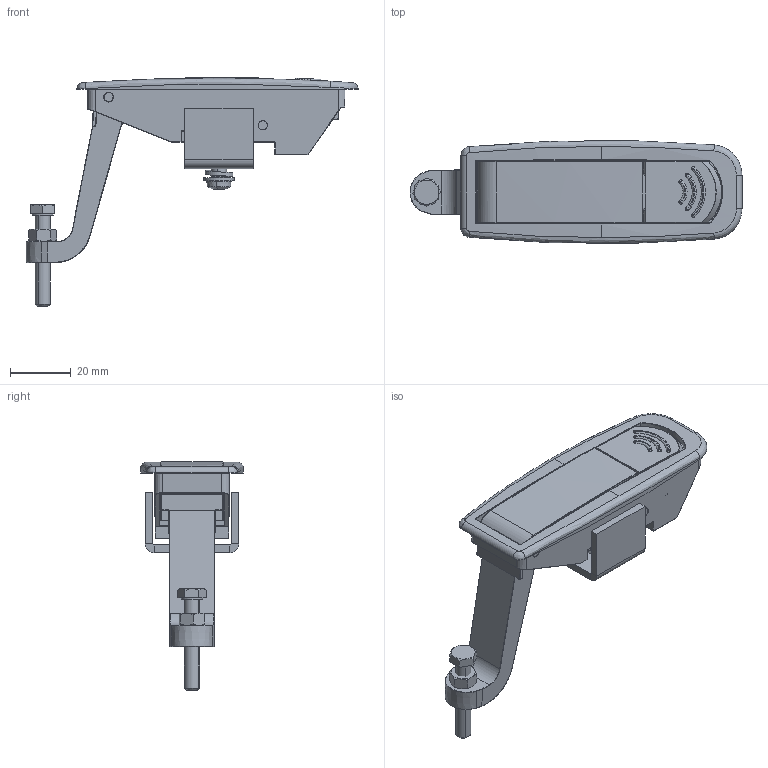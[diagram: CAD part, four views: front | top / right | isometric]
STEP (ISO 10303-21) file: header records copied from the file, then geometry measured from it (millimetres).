
FILE_DESCRIPTION (( 'STEP AP214' ), '1' );
FILE_NAME ('2.615.002.STEP', '2025-01-15T11:20:06', ( '' ), ( '' ), 'SwSTEP 2.0', 'SolidWorks 2021', '' );
FILE_SCHEMA (( 'AUTOMOTIVE_DESIGN' ));
Length unit declared in the file: millimetre
Products named in the file (13): DIN 934_M5; P.039231_00-00; P.039811_01-00; DIN 127 B_M5 - ST; P.039214_naprｩｾona; P.040017_naprｩｾony; DIN 125 A_M5; DIN-7985_M5x12; P.039678_01-00; 2.615.002; P.039844_00-00; DIN 933_M5x30; P.039824_04-00
Assembly tree (15 placements, depth 2):
  2.615.002
    P.039678_01-00
    P.039824_04-00
    P.039811_01-00
    P.039844_00-00  x2
    P.039231_00-00
    DIN-7985_M5x12
    DIN 127 B_M5 - ST  x2
    DIN 125 A_M5  x2
    P.040017_naprｩｾony
    P.039214_naprｩｾona
    DIN 933_M5x30
    DIN 934_M5
Bounding box: 109.26 x 33.77 x 75.36 mm (x, y, z)
Volume: 30046.5 mm3; surface area: 29576.9 mm2
Topology: 15 solids, 15 shells, 1547 faces, 3650 edges, 2110 vertices
Faces by surface type: plane 544, cylinder 500, bspline 250, sphere 122, torus 81, cone 50
Entity records: 48167 total; most frequent: CARTESIAN_POINT 17010, ORIENTED_EDGE 6624, DIRECTION 6264, EDGE_CURVE 3312, AXIS2_PLACEMENT_3D 2403, VERTEX_POINT 1928, EDGE_LOOP 1484, VECTOR 1458
